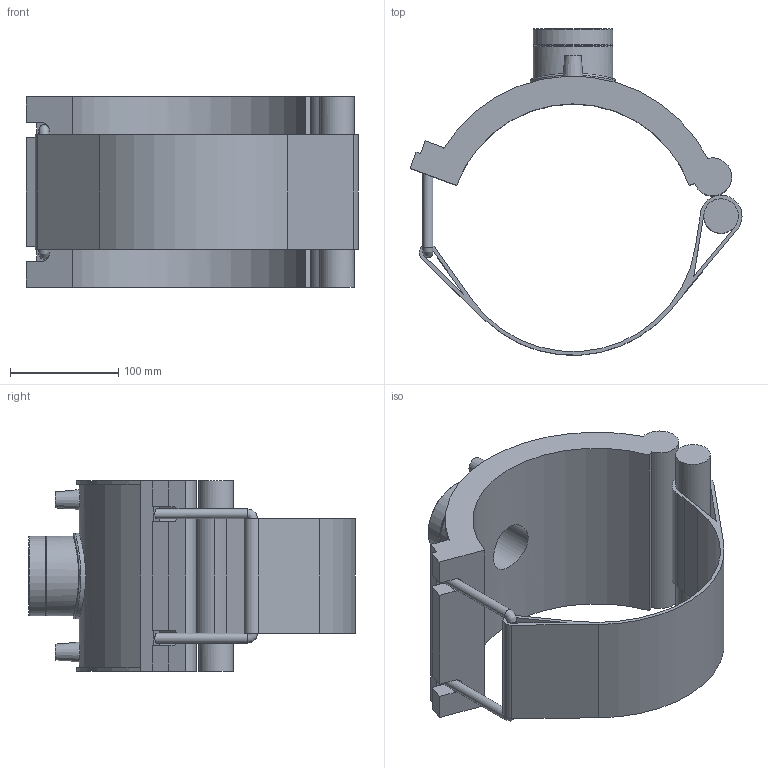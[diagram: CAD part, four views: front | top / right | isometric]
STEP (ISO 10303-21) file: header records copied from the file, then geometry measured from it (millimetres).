
FILE_DESCRIPTION(/* description */ ('PLASSON TRANSITION SADDLE 8''''DIPS x 2"NPT'),/* implementation_level */ '2;1');
FILE_NAME(/* name */ 'C:\Dropbox\KIMPROJECTS-Inventor 2019\99-16-3568-Processing Inch\ASTM ElectroFusion 2021\5938D\5938D00308070.ipt.stp',/* time_stamp */ '2021-08-30T09:52:15+03:00',/* author */ ('KIM'),/* organization */ (''),/* preprocessor_version */ 'ST-DEVELOPER v17.2',/* originating_system */ 'Autodesk Inventor 2019',/* authorisation */ '');
FILE_SCHEMA (('AUTOMOTIVE_DESIGN { 1 0 10303 214 3 1 1 }'));
Length unit declared in the file: inch
Products named in the file (1): 5938D00308070
Bounding box: 306.75 x 301.79 x 176.02 mm (x, y, z)
Volume: 1923015.4 mm3; surface area: 315584.2 mm2
Topology: 1 solids, 1 shells, 78 faces, 196 edges, 128 vertices
Faces by surface type: plane 42, cylinder 28, cone 5, torus 2, bspline 1
Full cylindrical faces by diameter (mm): 4 x2, 9.156 x2, 10 x2, 31.87 x1, 45.325 x1, 56.656 x1, 72.653 x1, 73.653 x2, 79.318 x1
Entity records: 2806 total; most frequent: CARTESIAN_POINT 815, DIRECTION 414, ORIENTED_EDGE 394, EDGE_CURVE 197, AXIS2_PLACEMENT_3D 150, VERTEX_POINT 128, LINE 114, VECTOR 114
